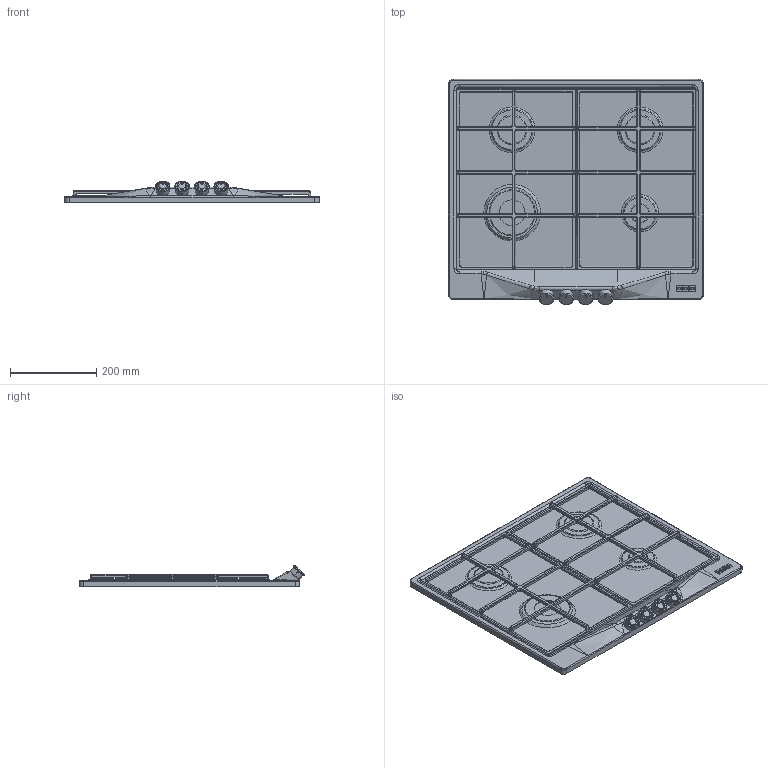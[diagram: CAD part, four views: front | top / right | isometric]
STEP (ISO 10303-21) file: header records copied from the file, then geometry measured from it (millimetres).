
FILE_DESCRIPTION(/* description */ (''),/* implementation_level */ '2;1');
FILE_NAME(/* name */ '3D001_Hobs-Gas_Country_FCH-604-3G-TC-C',/* time_stamp */ '2024-02-05T16:53:08+01:00',/* author */ (''),/* organization */ (''),/* preprocessor_version */ 'ST-DEVELOPER v19.2',/* originating_system */ 'Rhino 8.3',/* authorisation */ '');
FILE_SCHEMA (('CONFIG_CONTROL_DESIGN'));
Length unit declared in the file: millimetre
Products named in the file (2): Document; LOGO_FRANKE
Bounding box: 590 x 521.84 x 49.76 mm (x, y, z)
Volume: 26309.5 mm3; surface area: 855088.2 mm2
Topology: 9 solids, 24 shells, 942 faces, 2750 edges, 1556 vertices
Faces by surface type: plane 450, bspline 387, cylinder 105
Full cylindrical faces by diameter (mm): 59.743 x1
Entity records: 41288 total; most frequent: CARTESIAN_POINT 22607, ORIENTED_EDGE 4940, EDGE_CURVE 2742, B_SPLINE_CURVE_WITH_KNOTS 1905, DIRECTION 1615, VERTEX_POINT 1556, AXIS2_PLACEMENT_3D 1085, EDGE_LOOP 976
